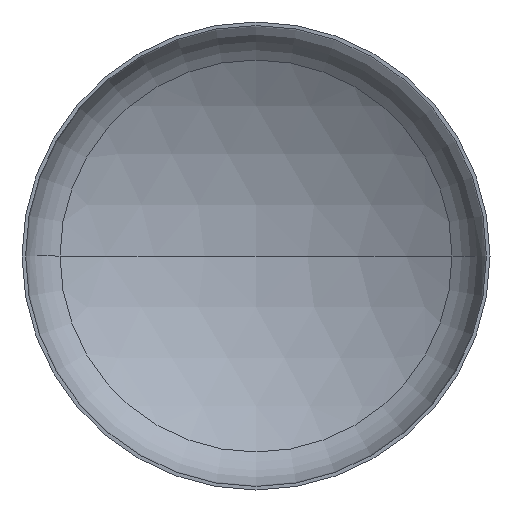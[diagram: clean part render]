
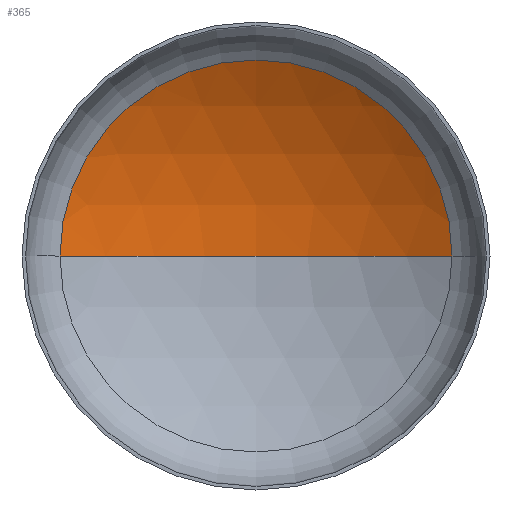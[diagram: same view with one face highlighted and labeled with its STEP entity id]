
A CAD part, front view. The second image highlights one B-rep face of the part: STEP entity #365.
In plain terms, the highlighted spherical face has radius 2720 mm.
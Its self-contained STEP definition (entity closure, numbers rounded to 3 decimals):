
#2 = AXIS2_PLACEMENT_3D ( 'NONE', #407, #131, #158 ) ;
#19 = DIRECTION ( 'NONE',  ( 1., 0., 0. ) ) ;
#34 = VERTEX_POINT ( 'NONE', #296 ) ;
#41 = VERTEX_POINT ( 'NONE', #366 ) ;
#55 = AXIS2_PLACEMENT_3D ( 'NONE', #411, #286, #19 ) ;
#60 = AXIS2_PLACEMENT_3D ( 'NONE', #222, #202, #203 ) ;
#62 = AXIS2_PLACEMENT_3D ( 'NONE', #232, #229, #230 ) ;
#63 = ORIENTED_EDGE ( 'NONE', *, *, #112, .T. ) ;
#110 = VERTEX_POINT ( 'NONE', #343 ) ;
#112 = EDGE_CURVE ( 'NONE', #41, #34, #246, .T. ) ;
#115 = EDGE_CURVE ( 'NONE', #110, #41, #357, .T. ) ;
#117 = EDGE_CURVE ( 'NONE', #110, #34, #406, .T. ) ;
#128 = ORIENTED_EDGE ( 'NONE', *, *, #115, .T. ) ;
#131 = DIRECTION ( 'NONE',  ( 0., 0., -1. ) ) ;
#146 = ORIENTED_EDGE ( 'NONE', *, *, #117, .F. ) ;
#158 = DIRECTION ( 'NONE',  ( -1., 0., 0. ) ) ;
#202 = DIRECTION ( 'NONE',  ( 0., 0., -1. ) ) ;
#203 = DIRECTION ( 'NONE',  ( -1., 0., 0. ) ) ;
#222 = CARTESIAN_POINT ( 'NONE',  ( 0., -1785.247, 0. ) ) ;
#229 = DIRECTION ( 'NONE',  ( 0., -1., 0. ) ) ;
#230 = DIRECTION ( 'NONE',  ( 1., 0., 0. ) ) ;
#232 = CARTESIAN_POINT ( 'NONE',  ( 0., 532.326, 0. ) ) ;
#246 = CIRCLE ( 'NONE', #62, 1423.818 ) ;
#257 = SPHERICAL_SURFACE ( 'NONE', #2, 2720. ) ;
#286 = DIRECTION ( 'NONE',  ( 0., 0., 1. ) ) ;
#296 = CARTESIAN_POINT ( 'NONE',  ( -1423.818, 532.326, 0. ) ) ;
#315 = EDGE_LOOP ( 'NONE', ( #146, #128, #63 ) ) ;
#343 = CARTESIAN_POINT ( 'NONE',  ( 0., 934.753, 0. ) ) ;
#357 = CIRCLE ( 'NONE', #60, 2720. ) ;
#359 = FACE_OUTER_BOUND ( 'NONE', #315, .T. ) ;
#365 = ADVANCED_FACE ( 'NONE', ( #359 ), #257, .F. ) ;
#366 = CARTESIAN_POINT ( 'NONE',  ( 1423.818, 532.326, 0. ) ) ;
#406 = CIRCLE ( 'NONE', #55, 2720. ) ;
#407 = CARTESIAN_POINT ( 'NONE',  ( 0., -1785.247, 0. ) ) ;
#411 = CARTESIAN_POINT ( 'NONE',  ( 0., -1785.247, 0. ) ) ;
